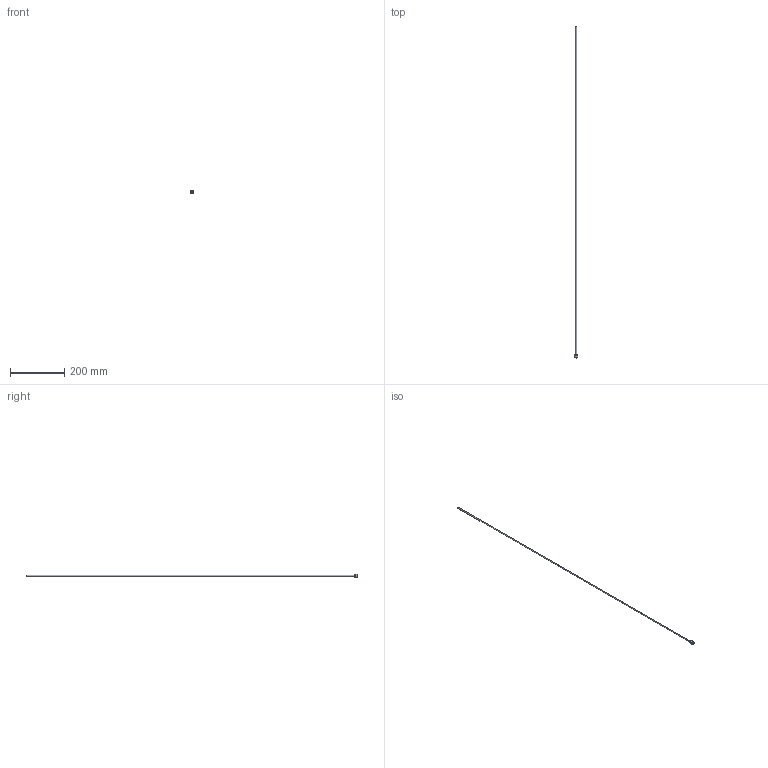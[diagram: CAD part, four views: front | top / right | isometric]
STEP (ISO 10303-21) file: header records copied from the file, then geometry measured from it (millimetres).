
FILE_DESCRIPTION(/* description */ (''),/* implementation_level */ '2;1');
FILE_NAME(/* name */ 'C:/Users/drich/Desktop/PT14-187-48 v1.step',/* time_stamp */ '2019-12-27T15:07:37-06:00',/* author */ (''),/* organization */ (''),/* preprocessor_version */ 'ST-DEVELOPER v18',/* originating_system */ 'Autodesk Translation Framework v8.12.0.6',/* authorisation */ '');
FILE_SCHEMA (('AUTOMOTIVE_DESIGN { 1 0 10303 214 3 1 1 }'));
Length unit declared in the file: inch
Products named in the file (1): PT14-187-48
Bounding box: 13.03 x 1219.2 x 13.03 mm (x, y, z)
Volume: 5253.5 mm3; surface area: 34905.5 mm2
Topology: 1 solids, 1 shells, 19 faces, 48 edges, 34 vertices
Faces by surface type: plane 11, cylinder 4, torus 2, cone 2
Full cylindrical faces by diameter (mm): 4.242 x1, 4.724 x1, 8.712 x1, 13.032 x1
Entity records: 633 total; most frequent: DIRECTION 112, CARTESIAN_POINT 102, ORIENTED_EDGE 96, EDGE_CURVE 48, AXIS2_PLACEMENT_3D 44, VERTEX_POINT 34, CIRCLE 24, EDGE_LOOP 24
